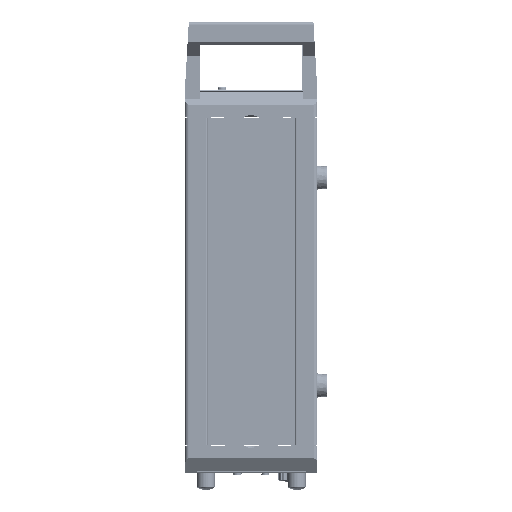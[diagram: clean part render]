
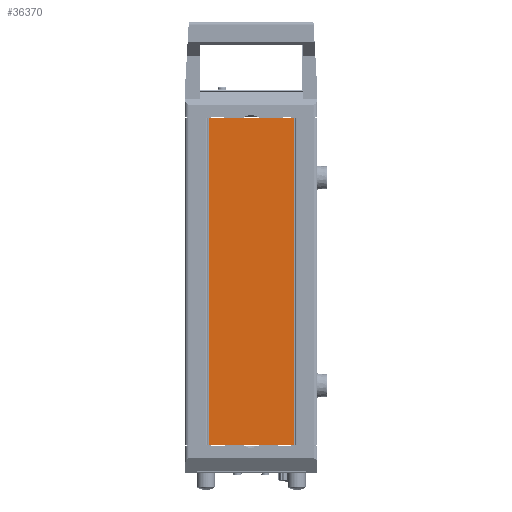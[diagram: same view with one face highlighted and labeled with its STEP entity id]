
A CAD part, left-side view. The second image highlights one B-rep face of the part: STEP entity #36370.
In plain terms, the highlighted planar face has unit normal (1, 0, 0).
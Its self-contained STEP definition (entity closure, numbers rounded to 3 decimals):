
#2888 = VECTOR ( 'NONE', #69212, 1000. ) ;
#7859 = AXIS2_PLACEMENT_3D ( 'NONE', #65680, #86532, #32872 ) ;
#9284 = EDGE_LOOP ( 'NONE', ( #51586, #79811, #77387, #13279 ) ) ;
#13279 = ORIENTED_EDGE ( 'NONE', *, *, #19232, .T. ) ;
#15165 = PLANE ( 'NONE',  #7859 ) ;
#19232 = EDGE_CURVE ( 'NONE', #94132, #62907, #83154, .T. ) ;
#19888 = DIRECTION ( 'NONE',  ( 0., 1., 0. ) ) ;
#25274 = FACE_OUTER_BOUND ( 'NONE', #9284, .T. ) ;
#32872 = DIRECTION ( 'NONE',  ( 0., 0., 1. ) ) ;
#33416 = CARTESIAN_POINT ( 'NONE',  ( -117.22, 63., 11.2 ) ) ;
#36370 = ADVANCED_FACE ( 'NONE', ( #25274 ), #15165, .F. ) ;
#40776 = CARTESIAN_POINT ( 'NONE',  ( -117.22, 6.1, -206.2 ) ) ;
#51586 = ORIENTED_EDGE ( 'NONE', *, *, #94697, .T. ) ;
#51686 = VECTOR ( 'NONE', #19888, 1000. ) ;
#62907 = VERTEX_POINT ( 'NONE', #115980 ) ;
#65680 = CARTESIAN_POINT ( 'NONE',  ( -117.22, 6.1, 11.2 ) ) ;
#65743 = DIRECTION ( 'NONE',  ( 0., -1., 0. ) ) ;
#69212 = DIRECTION ( 'NONE',  ( 0., 0., 1. ) ) ;
#70439 = LINE ( 'NONE', #80503, #51686 ) ;
#71081 = DIRECTION ( 'NONE',  ( 0., 0., -1. ) ) ;
#76276 = VECTOR ( 'NONE', #71081, 1000. ) ;
#77387 = ORIENTED_EDGE ( 'NONE', *, *, #117808, .T. ) ;
#79811 = ORIENTED_EDGE ( 'NONE', *, *, #117583, .T. ) ;
#80503 = CARTESIAN_POINT ( 'NONE',  ( -117.22, 63., -206.2 ) ) ;
#80617 = LINE ( 'NONE', #108943, #2888 ) ;
#83154 = LINE ( 'NONE', #40776, #76276 ) ;
#84745 = VECTOR ( 'NONE', #65743, 1000. ) ;
#86306 = CARTESIAN_POINT ( 'NONE',  ( -117.22, 6.1, 11.2 ) ) ;
#86532 = DIRECTION ( 'NONE',  ( -1., 0., 0. ) ) ;
#94132 = VERTEX_POINT ( 'NONE', #86306 ) ;
#94697 = EDGE_CURVE ( 'NONE', #62907, #125383, #70439, .T. ) ;
#107773 = CARTESIAN_POINT ( 'NONE',  ( -117.22, 63., 11.2 ) ) ;
#108943 = CARTESIAN_POINT ( 'NONE',  ( -117.22, 63., -206.2 ) ) ;
#112437 = VERTEX_POINT ( 'NONE', #107773 ) ;
#112516 = CARTESIAN_POINT ( 'NONE',  ( -117.22, 63., -206.2 ) ) ;
#115980 = CARTESIAN_POINT ( 'NONE',  ( -117.22, 6.1, -206.2 ) ) ;
#117583 = EDGE_CURVE ( 'NONE', #125383, #112437, #80617, .T. ) ;
#117808 = EDGE_CURVE ( 'NONE', #112437, #94132, #128315, .T. ) ;
#125383 = VERTEX_POINT ( 'NONE', #112516 ) ;
#128315 = LINE ( 'NONE', #33416, #84745 ) ;
